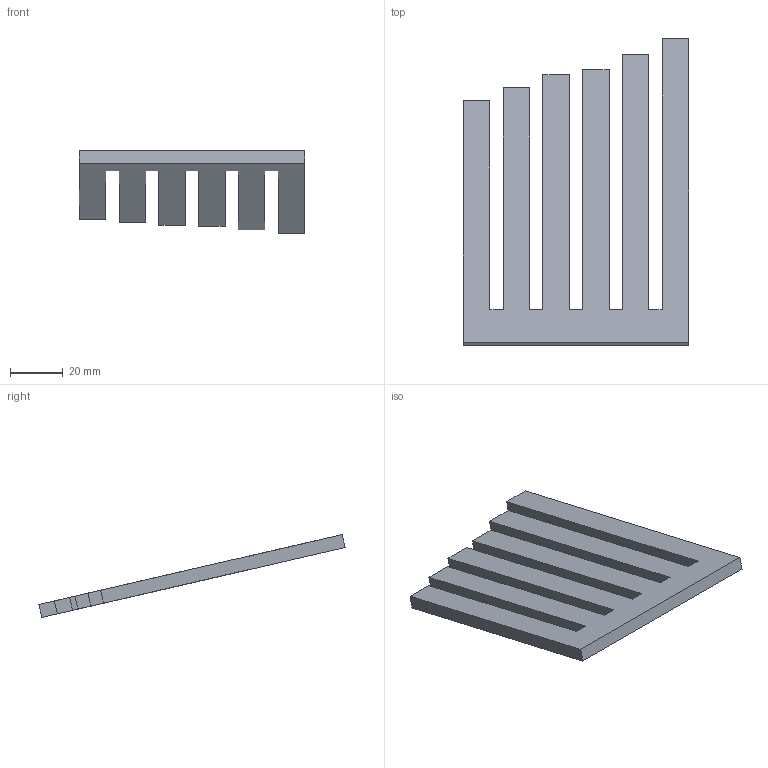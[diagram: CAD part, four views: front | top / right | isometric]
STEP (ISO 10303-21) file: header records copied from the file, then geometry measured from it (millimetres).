
FILE_DESCRIPTION(/* description */ ('STEP AP242 Edition 2','CAx-IF Rec.Pracs.---Representation and Presentation of Product Manufacturing Information (PMI)---4.0---2014-10-13','CAx-IF Rec.Pracs.---3D Tessellated Geometry---0.4---2014-09-14','2;1','CAx-IF Rec.Pracs.---User Defined Attributes---1.5---2016-08-15'),/* implementation_level */ '2;1');
FILE_NAME(/* name */ 'Part Studio 1 - Aluminum marblephone',/* time_stamp */ '2026-10-19T00:09:50Z',/* author */ (''),/* organization */ (''),/* preprocessor_version */ 'ST-DEVELOPER v20',/* originating_system */ 'ONSHAPE BY PTC INC, 1.222',/* authorisation */ ' ');
FILE_SCHEMA (('AP242_MANAGED_MODEL_BASED_3D_ENGINEERING_MIM_LF { 1 0 10303 442 3 1 4 }'));
Length unit declared in the file: metre
Products named in the file (1): Aluminum marblephone
Bounding box: 85 x 115.74 x 31.33 mm (x, y, z)
Volume: 33119.1 mm3; surface area: 19774 mm2
Topology: 1 solids, 1 shells, 26 faces, 72 edges, 48 vertices
Faces by surface type: plane 26
Entity records: 838 total; most frequent: CARTESIAN_POINT 147, ORIENTED_EDGE 144, DIRECTION 126, EDGE_CURVE 72, LINE 72, VECTOR 72, VERTEX_POINT 48, AXIS2_PLACEMENT_3D 27
